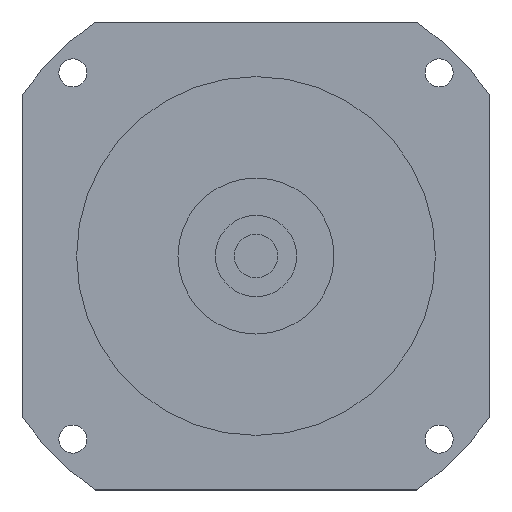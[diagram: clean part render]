
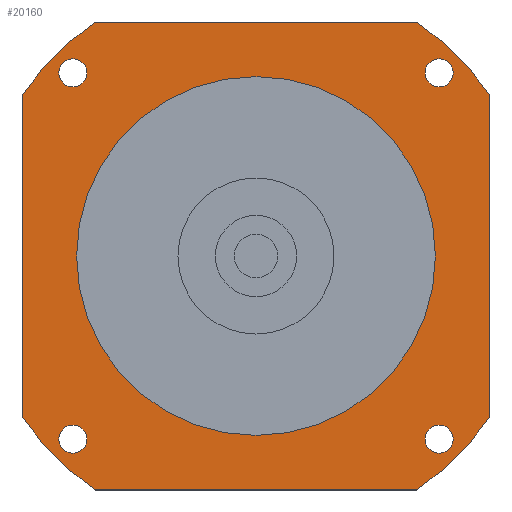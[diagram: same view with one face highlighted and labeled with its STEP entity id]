
A CAD part, left-side view. The second image highlights one B-rep face of the part: STEP entity #20160.
In plain terms, the highlighted planar face has unit normal (-1, 0, 0) as drawn and (0, 0, -1) by its records, which use the part's own axes.
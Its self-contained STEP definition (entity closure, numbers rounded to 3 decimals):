
#18320=CARTESIAN_POINT('',(-54.19,-58.69,-137.));
#18330=VERTEX_POINT('',#18320);
#18410=CARTESIAN_POINT('',(-63.19,-58.69,-137.));
#18420=VERTEX_POINT('',#18410);
#18450=CARTESIAN_POINT('',(-58.69,-58.69,-137.));
#18460=DIRECTION('',(0.,0.,-1.));
#18470=DIRECTION('',(0.,-1.,0.));
#18480=AXIS2_PLACEMENT_3D('',#18450,#18460,#18470);
#18490=CIRCLE('',#18480,4.5);
#18500=CARTESIAN_POINT('',(-58.69,-63.19,-137.));
#18510=VERTEX_POINT('',#18500);
#18520=EDGE_CURVE('',#18510,#18420,#18490,.T.);
#18540=EDGE_CURVE('',#18330,#18510,#18490,.T.);
#18590=CARTESIAN_POINT('',(-75.,75.,-137.));
#18600=DIRECTION('',(0.,0.,1.));
#18610=DIRECTION('',(-1.,0.,0.));
#18620=AXIS2_PLACEMENT_3D('',#18590,#18600,#18610);
#18630=PLANE('',#18620);
#18640=CARTESIAN_POINT('',(58.69,-58.69,-137.));
#18650=DIRECTION('',(0.,0.,-1.));
#18660=DIRECTION('',(1.,0.,0.));
#18670=AXIS2_PLACEMENT_3D('',#18640,#18650,#18660);
#18680=CIRCLE('',#18670,4.5);
#18690=CARTESIAN_POINT('',(63.19,-58.69,-137.));
#18700=VERTEX_POINT('',#18690);
#18710=CARTESIAN_POINT('',(58.69,-63.19,-137.));
#18720=VERTEX_POINT('',#18710);
#18730=EDGE_CURVE('',#18700,#18720,#18680,.T.);
#18740=ORIENTED_EDGE('',*,*,#18730,.F.);
#18750=CARTESIAN_POINT('',(58.69,-54.19,-137.));
#18760=VERTEX_POINT('',#18750);
#18770=EDGE_CURVE('',#18720,#18760,#18680,.T.);
#18780=ORIENTED_EDGE('',*,*,#18770,.F.);
#18790=EDGE_CURVE('',#18760,#18700,#18680,.T.);
#18800=ORIENTED_EDGE('',*,*,#18790,.F.);
#18810=EDGE_LOOP('',(#18800,#18780,#18740));
#18820=FACE_BOUND('',#18810,.T.);
#18830=CARTESIAN_POINT('',(58.69,58.69,-137.));
#18840=DIRECTION('',(0.,0.,-1.));
#18850=DIRECTION('',(0.,1.,0.));
#18860=AXIS2_PLACEMENT_3D('',#18830,#18840,#18850);
#18870=CIRCLE('',#18860,4.5);
#18880=CARTESIAN_POINT('',(58.69,63.19,-137.));
#18890=VERTEX_POINT('',#18880);
#18900=CARTESIAN_POINT('',(63.19,58.69,-137.));
#18910=VERTEX_POINT('',#18900);
#18920=EDGE_CURVE('',#18890,#18910,#18870,.T.);
#18930=ORIENTED_EDGE('',*,*,#18920,.F.);
#18940=CARTESIAN_POINT('',(54.19,58.69,-137.));
#18950=VERTEX_POINT('',#18940);
#18960=EDGE_CURVE('',#18910,#18950,#18870,.T.);
#18970=ORIENTED_EDGE('',*,*,#18960,.F.);
#18980=EDGE_CURVE('',#18950,#18890,#18870,.T.);
#18990=ORIENTED_EDGE('',*,*,#18980,.F.);
#19000=EDGE_LOOP('',(#18990,#18970,#18930));
#19010=FACE_BOUND('',#19000,.T.);
#19020=CARTESIAN_POINT('',(-58.69,58.69,-137.));
#19030=DIRECTION('',(0.,0.,-1.));
#19040=DIRECTION('',(-1.,0.,0.));
#19050=AXIS2_PLACEMENT_3D('',#19020,#19030,#19040);
#19060=CIRCLE('',#19050,4.5);
#19070=CARTESIAN_POINT('',(-63.19,58.69,-137.));
#19080=VERTEX_POINT('',#19070);
#19090=CARTESIAN_POINT('',(-58.69,63.19,-137.));
#19100=VERTEX_POINT('',#19090);
#19110=EDGE_CURVE('',#19080,#19100,#19060,.T.);
#19120=ORIENTED_EDGE('',*,*,#19110,.F.);
#19130=CARTESIAN_POINT('',(-58.69,54.19,-137.));
#19140=VERTEX_POINT('',#19130);
#19150=EDGE_CURVE('',#19100,#19140,#19060,.T.);
#19160=ORIENTED_EDGE('',*,*,#19150,.F.);
#19170=EDGE_CURVE('',#19140,#19080,#19060,.T.);
#19180=ORIENTED_EDGE('',*,*,#19170,.F.);
#19190=EDGE_LOOP('',(#19180,#19160,#19120));
#19200=FACE_BOUND('',#19190,.T.);
#19210=ORIENTED_EDGE('',*,*,#18520,.F.);
#19220=EDGE_CURVE('',#18420,#18330,#18490,.T.);
#19230=ORIENTED_EDGE('',*,*,#19220,.F.);
#19240=ORIENTED_EDGE('',*,*,#18540,.F.);
#19250=EDGE_LOOP('',(#19240,#19230,#19210));
#19260=FACE_BOUND('',#19250,.T.);
#19270=CARTESIAN_POINT('',(0.,0.,
-137.));
#19280=DIRECTION('',(0.,0.,1.));
#19290=DIRECTION('',(0.,-1.,0.));
#19300=AXIS2_PLACEMENT_3D('',#19270,#19280,#19290);
#19310=CIRCLE('',#19300,91.);
#19320=CARTESIAN_POINT('',(-75.,-51.536,-137.));
#19330=VERTEX_POINT('',#19320);
#19340=CARTESIAN_POINT('',(-51.536,-75.,-137.));
#19350=VERTEX_POINT('',#19340);
#19360=EDGE_CURVE('',#19330,#19350,#19310,.T.);
#19370=ORIENTED_EDGE('',*,*,#19360,.F.);
#19380=CARTESIAN_POINT('',(-75.,-75.,-137.));
#19390=DIRECTION('',(1.,0.,0.));
#19400=VECTOR('',#19390,1000.);
#19410=LINE('',#19380,#19400);
#19420=CARTESIAN_POINT('',(51.536,-75.,-137.));
#19430=VERTEX_POINT('',#19420);
#19440=EDGE_CURVE('',#19350,#19430,#19410,.T.);
#19450=ORIENTED_EDGE('',*,*,#19440,.F.);
#19460=CARTESIAN_POINT('',(0.,0.,
-137.));
#19470=DIRECTION('',(0.,0.,1.));
#19480=DIRECTION('',(0.,-1.,0.));
#19490=AXIS2_PLACEMENT_3D('',#19460,#19470,#19480);
#19500=CIRCLE('',#19490,91.);
#19510=CARTESIAN_POINT('',(75.,-51.536,-137.));
#19520=VERTEX_POINT('',#19510);
#19530=EDGE_CURVE('',#19430,#19520,#19500,.T.);
#19540=ORIENTED_EDGE('',*,*,#19530,.F.);
#19550=CARTESIAN_POINT('',(75.,-75.,-137.));
#19560=DIRECTION('',(0.,1.,0.));
#19570=VECTOR('',#19560,1000.);
#19580=LINE('',#19550,#19570);
#19590=CARTESIAN_POINT('',(75.,51.536,-137.));
#19600=VERTEX_POINT('',#19590);
#19610=EDGE_CURVE('',#19520,#19600,#19580,.T.);
#19620=ORIENTED_EDGE('',*,*,#19610,.F.);
#19630=CARTESIAN_POINT('',(0.,0.,
-137.));
#19640=DIRECTION('',(0.,0.,1.));
#19650=DIRECTION('',(0.,-1.,0.));
#19660=AXIS2_PLACEMENT_3D('',#19630,#19640,#19650);
#19670=CIRCLE('',#19660,91.);
#19680=CARTESIAN_POINT('',(51.536,75.,-137.));
#19690=VERTEX_POINT('',#19680);
#19700=EDGE_CURVE('',#19600,#19690,#19670,.T.);
#19710=ORIENTED_EDGE('',*,*,#19700,.F.);
#19720=CARTESIAN_POINT('',(75.,75.,-137.));
#19730=DIRECTION('',(-1.,0.,0.));
#19740=VECTOR('',#19730,1000.);
#19750=LINE('',#19720,#19740);
#19760=CARTESIAN_POINT('',(-51.536,75.,-137.));
#19770=VERTEX_POINT('',#19760);
#19780=EDGE_CURVE('',#19690,#19770,#19750,.T.);
#19790=ORIENTED_EDGE('',*,*,#19780,.F.);
#19800=CARTESIAN_POINT('',(0.,0.,
-137.));
#19810=DIRECTION('',(0.,0.,1.));
#19820=DIRECTION('',(0.,-1.,0.));
#19830=AXIS2_PLACEMENT_3D('',#19800,#19810,#19820);
#19840=CIRCLE('',#19830,91.);
#19850=CARTESIAN_POINT('',(-75.,51.536,-137.));
#19860=VERTEX_POINT('',#19850);
#19870=EDGE_CURVE('',#19770,#19860,#19840,.T.);
#19880=ORIENTED_EDGE('',*,*,#19870,.F.);
#19890=CARTESIAN_POINT('',(-75.,75.,-137.));
#19900=DIRECTION('',(0.,-1.,0.));
#19910=VECTOR('',#19900,1000.);
#19920=LINE('',#19890,#19910);
#19930=EDGE_CURVE('',#19860,#19330,#19920,.T.);
#19940=ORIENTED_EDGE('',*,*,#19930,.F.);
#19950=EDGE_LOOP('',(#19940,#19880,#19790,#19710,#19620,#19540,#19450,
#19370));
#19960=FACE_OUTER_BOUND('',#19950,.T.);
#19970=CARTESIAN_POINT('',(0.,0.,
-137.));
#19980=DIRECTION('',(0.,0.,1.));
#19990=DIRECTION('',(0.,-1.,0.));
#20000=AXIS2_PLACEMENT_3D('',#19970,#19980,#19990);
#20010=CIRCLE('',#20000,57.5);
#20020=CARTESIAN_POINT('',(57.5,0.,-137.));
#20030=VERTEX_POINT('',#20020);
#20040=CARTESIAN_POINT('',(-57.5,0.,-137.));
#20050=VERTEX_POINT('',#20040);
#20060=EDGE_CURVE('',#20030,#20050,#20010,.T.);
#20070=ORIENTED_EDGE('',*,*,#20060,.T.);
#20080=CARTESIAN_POINT('',(0.,-57.5,-137.));
#20090=VERTEX_POINT('',#20080);
#20100=EDGE_CURVE('',#20090,#20030,#20010,.T.);
#20110=ORIENTED_EDGE('',*,*,#20100,.T.);
#20120=EDGE_CURVE('',#20050,#20090,#20010,.T.);
#20130=ORIENTED_EDGE('',*,*,#20120,.T.);
#20140=EDGE_LOOP('',(#20130,#20110,#20070));
#20150=FACE_BOUND('',#20140,.T.);
#20160=ADVANCED_FACE('',(#18820,#19010,#19200,#19260,#19960,#20150),
#18630,.F.);
